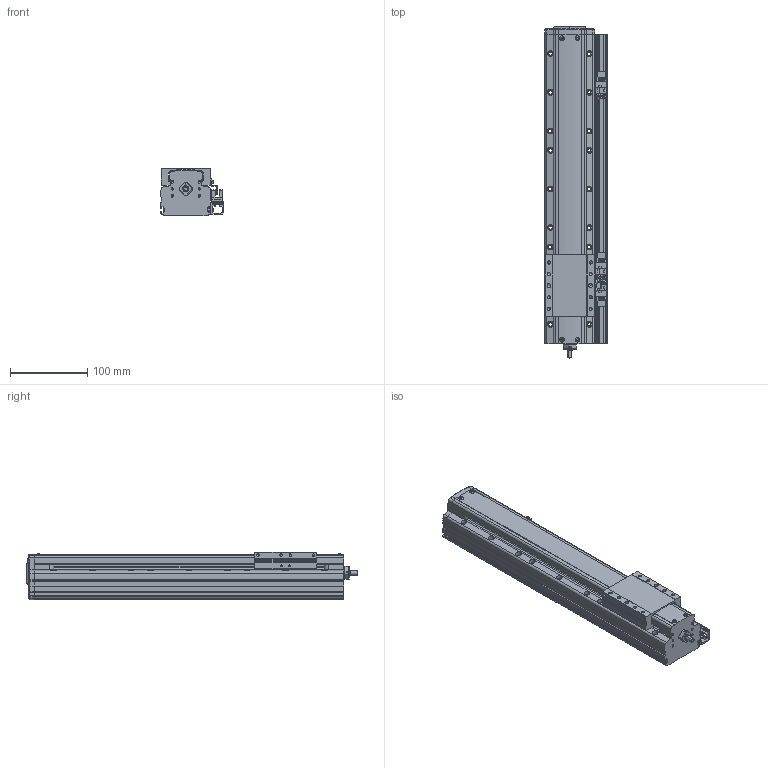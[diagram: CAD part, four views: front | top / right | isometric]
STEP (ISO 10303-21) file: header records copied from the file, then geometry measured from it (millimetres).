
FILE_DESCRIPTION(('STEP AP214'),'1');
FILE_NAME('Z:/Web/3D/PSA65/STP/PSA65-250 (3D)/PSA65ㅁㅁ-250+3SR.stp','2014-06-25T03:35:37',(' '),(' '),'Spatial InterOp 3D',' ',' ');
FILE_SCHEMA(('automotive_design'));
Length unit declared in the file: millimetre
Products named in the file (62): SLIDE; RRCV-PA060; 1; 2; 3; 4; 5; 6; 7; 8; 9; 10; 11; 12; 13; 14; 15; 16; 17; 18; 19; 20; 21; 22; 23; 24; 25; 26; 27; 28; 29; 30; 31; 스크루 : Round - M3.0 x 8.0; RN8 x 0.75; SHAFT-SAN65; BASE; 스크루 : Round - M3.0 x 6.0; EE-SX674; SBK-SX674-352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
Bounding box: 81 x 429.3 x 62 mm (x, y, z)
Volume: 1330932.9 mm3; surface area: 238239.8 mm2
Topology: 62 solids, 62 shells, 2149 faces, 5697 edges, 3664 vertices
Faces by surface type: plane 1342, cylinder 551, cone 183, sphere 42, torus 16, bspline 15
Entity records: 85143 total; most frequent: CARTESIAN_POINT 12957, DIRECTION 11380, ORIENTED_EDGE 11166, EDGE_CURVE 5583, LINE 4006, VECTOR 4006, AXIS2_PLACEMENT_3D 3687, VERTEX_POINT 3664
